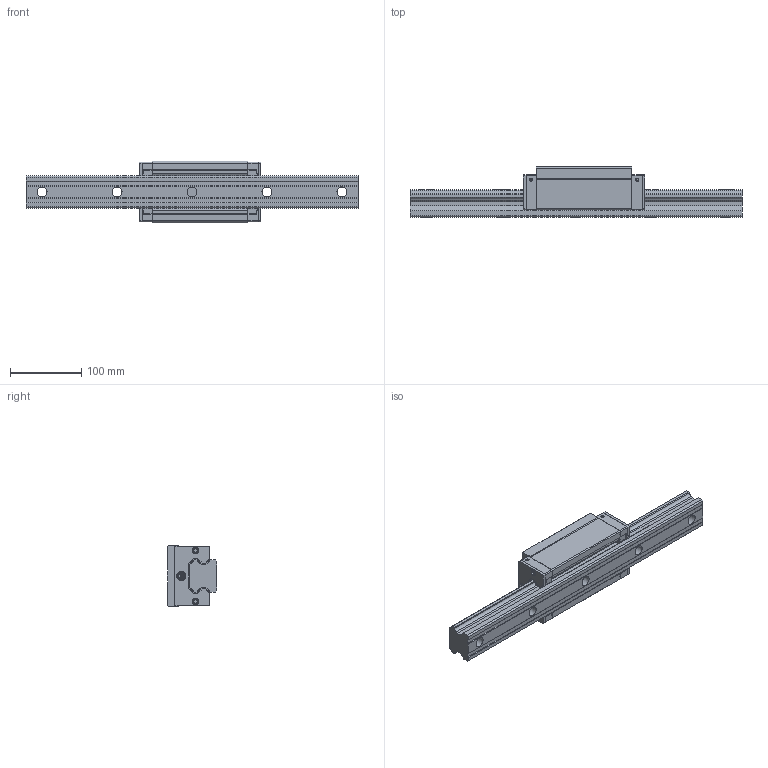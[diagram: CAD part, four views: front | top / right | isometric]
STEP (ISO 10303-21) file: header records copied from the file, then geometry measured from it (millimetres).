
FILE_DESCRIPTION( ( 'STEP AP214' ), '1' );
FILE_NAME( 'C:/Users/tu200/Desktop/賅筐葭/BSQ賅筐葭/VISIDATA/MAIL1/MCH45LN.stp', '2020-03-27T05:05:55', ( ' ' ), ( ' ' ), 'XStep 1.0', 'VISICAD', ' ' );
FILE_SCHEMA( ( 'automotive_design' ) );
Length unit declared in the file: metre
Products named in the file (4): 1; 2; 3; 4
Bounding box: 465 x 70 x 86 mm (x, y, z)
Volume: 1175854.1 mm3; surface area: 201343.8 mm2
Topology: 4 solids, 40 shells, 1542 faces, 4258 edges, 2829 vertices
Faces by surface type: plane 1033, cylinder 333, bspline 144, extrusion 12, sphere 8, torus 8, cone 4
Full cylindrical faces by diameter (mm): 2.92 x2, 3.4 x4, 3.7 x4, 4.7 x8, 6.6 x4, 8.4 x2, 8.5 x4, 9 x4, 10.4 x2, 13 x2, 14 x5, 20 x5
Entity records: 70517 total; most frequent: CARTESIAN_POINT 20695, ORIENTED_EDGE 8338, DIRECTION 6853, EDGE_CURVE 4169, VERTEX_POINT 2802, VECTOR 2729, LINE 2717, AXIS2_PLACEMENT_3D 2062
